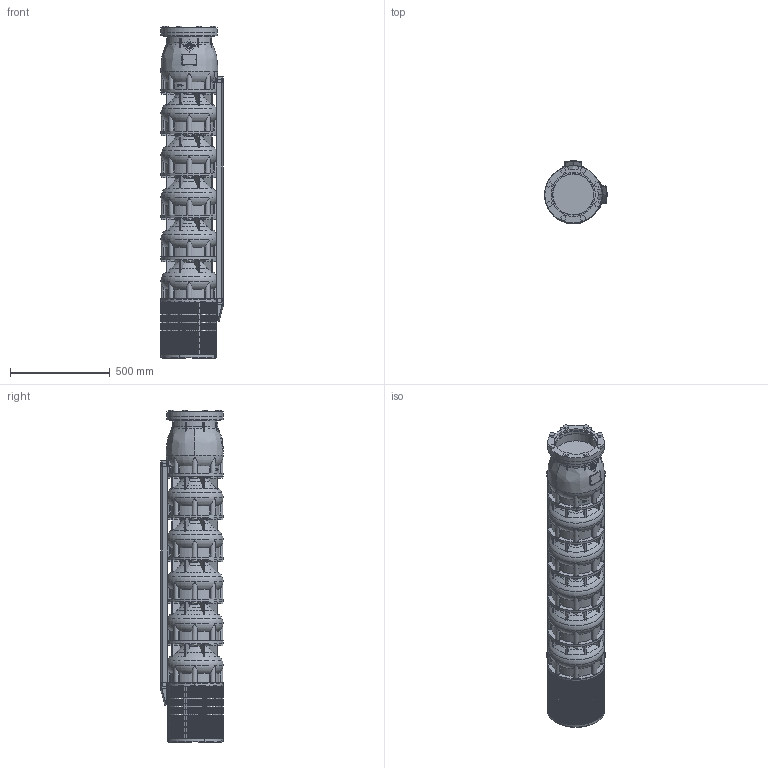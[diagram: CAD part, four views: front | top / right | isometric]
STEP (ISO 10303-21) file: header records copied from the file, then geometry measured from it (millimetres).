
FILE_DESCRIPTION(/* description */ ('-'),/* implementation_level */ '2;1');
FILE_NAME(/* name */ 'VSI344-5-1B_WF_M12-50_SLE',/* time_stamp */ '2026-01-21T11:44:42+01:00',/* author */ ('Simonelli M.'),/* organization */ ('Franklin Electric Srl'),/* preprocessor_version */ 'ST-DEVELOPER v18.102',/* originating_system */ 'Solid Edge',/* authorisation */ 'Unknown');
FILE_SCHEMA (('AUTOMOTIVE_DESIGN {1 0 10303 214 3 1 1}'));
Products named in the file (12): VSI344-5-1B_WF_M12-50_SLE; VSI344-454_testata; VSI344-454_supporto; VSI344-454_filtro_A; VSI344-454_filtro_B; VSI344-454_terminale_top_copricavo_medio; VSI344-454_terminale_bottom_copricavo_medio; MID 344-5; VSI344_diffusore; M5X8_UNI7687; VSI184-254_giunto_10×12; VSI344-454_flangia_testata
Assembly tree (29 placements, depth 2):
  VSI344-5-1B_WF_M12-50_SLE
    VSI344-454_testata
    VSI344-454_supporto
    VSI344-454_filtro_A
    VSI344-454_filtro_B
    VSI344-454_terminale_top_copricavo_medio  x2
    VSI344-454_terminale_bottom_copricavo_medio  x2
    MID 344-5  x2
    VSI344_diffusore  x5
    M5X8_UNI7687  x12
    VSI184-254_giunto_10×12
    VSI344-454_flangia_testata
Bounding box: 314.3 x 314.3 x 1665 mm (x, y, z)
Volume: 68975017.3 mm3; surface area: 4096575.4 mm2
Topology: 94 solids, 94 shells, 4654 faces, 13076 edges, 8686 vertices
Faces by surface type: plane 3681, cylinder 535, torus 306, cone 105, bspline 15, sphere 12
Full cylindrical faces by diameter (mm): 5 x12, 16 x8, 35 x1, 65 x1, 79 x1, 150 x1, 207 x1, 220.5 x1, 285 x5
Entity records: 124625 total; most frequent: CARTESIAN_POINT 28080, ORIENTED_EDGE 20264, DIRECTION 19376, EDGE_CURVE 10132, VERTEX_POINT 6757, AXIS2_PLACEMENT_3D 6546, LINE 6284, VECTOR 6284
